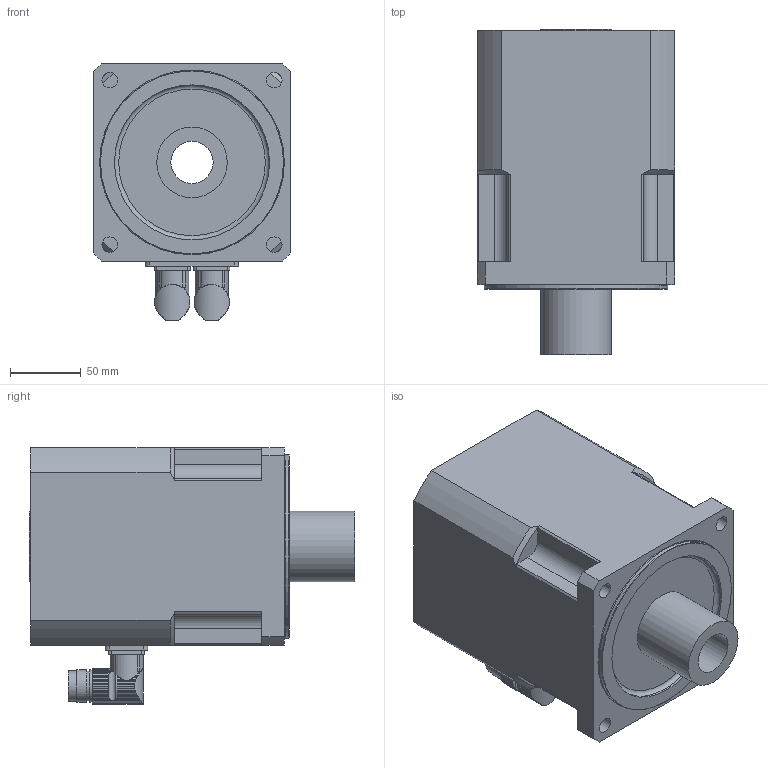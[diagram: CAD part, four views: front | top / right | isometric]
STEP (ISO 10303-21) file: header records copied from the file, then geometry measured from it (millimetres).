
FILE_DESCRIPTION(/* description */ (''),/* implementation_level */ '2;1');
FILE_NAME(/* name */ 'MH4251-Ux-Nxxx-Gxx-M0-P4',/* time_stamp */ '2008-09-01T09:25:12+02:00',/* author */ (''),/* organization */ (''),/* preprocessor_version */ 'ST-DEVELOPER v8',/* originating_system */ 'UNIGRAPHICS SOLUTIONS - UNIGRAPHICS 18.0',/* authorisation */ '');
FILE_SCHEMA (('AUTOMOTIVE_DESIGN { 1 2 10303 214 0 1 1 1 }'));
Length unit declared in the file: millimetre
Products named in the file (2): Winkelflanschdose_0; MH4251_Ux_Nxxx_Gxx_M0_P4_0
Assembly tree (2 placements, depth 2):
  MH4251_Ux_Nxxx_Gxx_M0_P4_0
    Winkelflanschdose_0  x2
Bounding box: 140 x 231 x 181.99 mm (x, y, z)
Volume: 3358754.6 mm3; surface area: 183457.8 mm2
Topology: 3 solids, 3 shells, 401 faces, 1132 edges, 755 vertices
Faces by surface type: cylinder 322, plane 72, cone 5, torus 2
Full cylindrical faces by diameter (mm): 11 x4, 16 x2, 20 x1, 21 x2, 21.5 x2, 23 x4, 30 x1, 50 x2, 110 x1, 130 x1
Entity records: 8012 total; most frequent: CARTESIAN_POINT 1961, ORIENTED_EDGE 1282, DIRECTION 1210, EDGE_CURVE 641, AXIS2_PLACEMENT_3D 477, VERTEX_POINT 438, EDGE_LOOP 277, LINE 256
